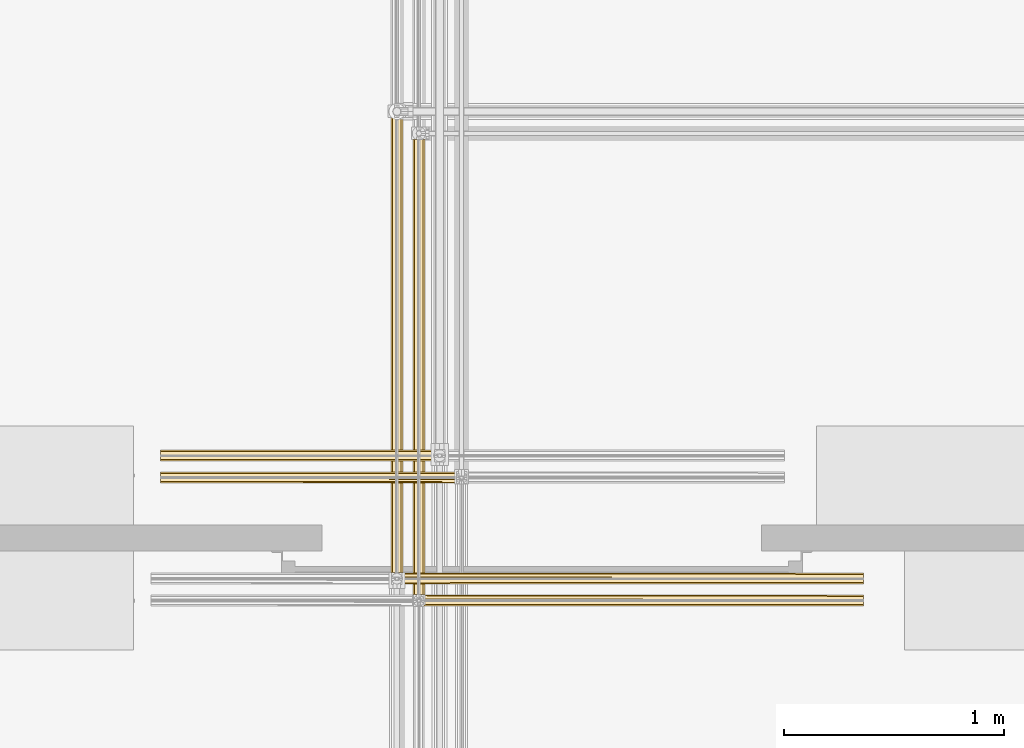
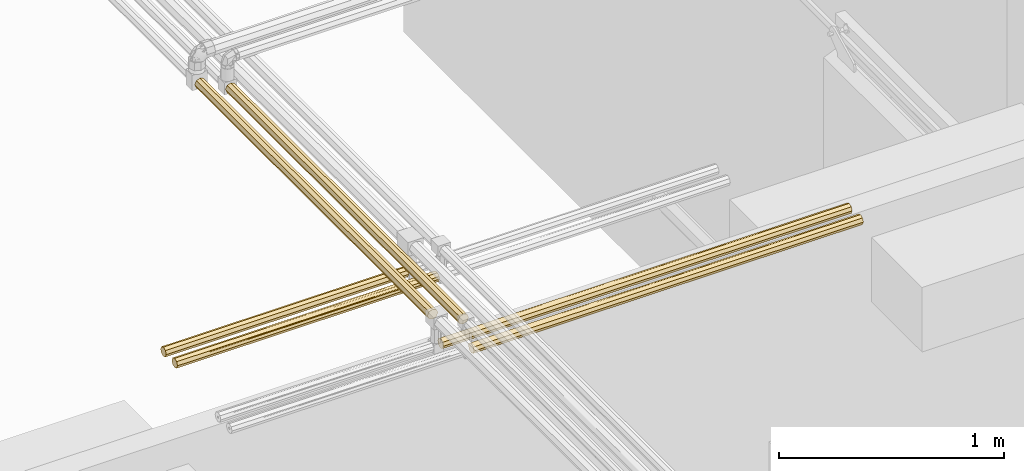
# One storey, part 86 of 652: 6 coverings.
"""IFC2X3 building model written with IfcOpenShell, lengths in millimetres."""

from ifc_helpers import new_model, entity, si_unit, converted_unit, direction, frame, origin, place, context, subcontext, project, spatial, faceted_brep, material, type_object, element, save


model = new_model("IFC2X3")

# Units and contexts
model_context = context("Model", 3, precision=0.01, world=frame((0.0, 0.0, 308426.39999999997)), true_north=direction((6.123233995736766e-17, 1.0)))
plan_context = context("Plan", 3, precision=0.01, world=frame((0.0, 0.0, 308426.39999999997)), true_north=direction((6.123233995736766e-17, 1.0)))
body_context = subcontext(model_context, "Body", "Model", "MODEL_VIEW")
ifc_project = project(units=[si_unit("LENGTHUNIT", "METRE", prefix="MILLI"), si_unit("AREAUNIT", "SQUARE_METRE"), si_unit("VOLUMEUNIT", "CUBIC_METRE"), converted_unit("PLANEANGLEUNIT", "DEGREE", entity("IfcPlaneAngleMeasure", 0.017453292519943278), si_unit("PLANEANGLEUNIT", "RADIAN"), dimensions=[0, 0, 0, 0, 0, 0, 0])], contexts=[model_context, plan_context])

# Site, building, storey
site_placement = place(None, origin())
site = spatial("IfcSite", under=ifc_project, at=site_placement, Name="Default", CompositionType="ELEMENT")
building_placement = place(site_placement, origin())
building = spatial("IfcBuilding", under=site, at=building_placement, CompositionType="ELEMENT")
storey_placement = place(building_placement, frame((0.0, 0.0, 1730.6999999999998)))
storey = spatial("IfcBuildingStorey", under=building, at=storey_placement, Name="EG_Produktion_FFB", CompositionType="ELEMENT", Elevation=1730.6999999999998)

# Coverings
ifc_material = material(Name="Dämmung - Armaflex-Schlauch")
covering_type = type_object("IfcCoveringType", Name="Rohrdämmung außen:Armaflex-Schlauch", PredefinedType="INSULATION")
covering_1_placement = place(storey_placement, frame((14961.467227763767, 57851.25459055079, 4228.532772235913)))
element("IfcCovering", 1, at=covering_1_placement, inside=storey, type_object=covering_type, material=ifc_material, Name="Rohrdämmung außen:Armaflex-Schlauch", ObjectType="Rohrdämmung außen:Armaflex-Schlauch", PredefinedType="INSULATION", context=body_context, shape_type="Brep", body=[
    faceted_brep([(14.24700554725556, 2070.3966594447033, -7.51263054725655), (19.008927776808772, 2070.3966594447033, -5.540177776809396), (23.77085000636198, 2070.3966594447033, -3.567725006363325), (28.53277223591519, 2070.3966594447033, -1.5952722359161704), (34.460828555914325, 2070.3966594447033, -4.050753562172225), (38.05661669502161, 2070.3966594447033, -5.540177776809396), (42.81853892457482, 2070.3966594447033, -7.51263054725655), (47.58046115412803, 2070.3966594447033, -9.485083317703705), (49.552913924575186, 2070.3966594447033, -14.247005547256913), (51.525366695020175, 2070.3966594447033, -19.008927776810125), (53.49781946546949, 2070.3966594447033, -23.770850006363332), (55.47027223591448, 2070.3966594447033, -28.532772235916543), (53.49781946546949, 2070.3966594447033, -33.29469446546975), (51.525366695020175, 2070.3966594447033, -38.05661669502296), (49.55291392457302, 2070.3966594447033, -42.818538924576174), (47.58046115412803, 2070.3966594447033, -47.58046115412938), (42.81853892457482, 2070.3966594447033, -49.552913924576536), (38.05661669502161, 2070.3966594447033, -51.52536669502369), (33.2946944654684, 2070.3966594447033, -53.49781946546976), (28.53277223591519, 2070.3966594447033, -55.470272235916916), (22.604715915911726, 2070.3966594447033, -53.01479090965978), (19.008927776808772, 2070.3966594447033, -51.52536669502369), (14.24700554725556, 2070.3966594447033, -49.552913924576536), (9.485083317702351, 2070.3966594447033, -47.58046115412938), (7.512630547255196, 2070.3966594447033, -42.818538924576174), (5.540177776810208, 2070.3966594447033, -38.05661669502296), (3.567725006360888, 2070.3966594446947, -33.29469446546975), (1.5952722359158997, 2070.3966594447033, -28.532772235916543), (4.050753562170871, 2070.3966594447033, -22.604715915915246), (5.540177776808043, 2070.3966594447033, -19.008927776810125), (7.512630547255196, 2070.3966594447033, -14.247005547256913), (9.485083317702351, 2070.3966594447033, -9.485083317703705), (1.5952722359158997, 0.0, -28.532772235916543), (4.050753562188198, 0.0, -34.46082855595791), (6.506234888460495, 0.0, -40.388884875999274), (9.485083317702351, 0.0, -47.58046115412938), (14.24700554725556, 0.0, -49.552913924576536), (19.008927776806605, 0.0, -51.52536669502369), (23.77085000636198, 0.0, -53.49781946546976), (28.53277223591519, 0.0, -55.470272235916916), (34.460828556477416, 0.0, -53.014790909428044), (40.388884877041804, 0.0, -50.55930958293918), (47.58046115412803, 0.0, -47.58046115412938), (49.552913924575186, 0.0, -42.818538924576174), (51.525366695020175, 0.0, -38.05661669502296), (53.49781946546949, 0.0, -33.29469446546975), (55.47027223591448, 0.0, -28.532772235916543), (53.01479090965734, 0.0, -22.604715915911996), (50.55930958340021, 0.0, -16.676659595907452), (47.58046115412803, 0.0, -9.485083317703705), (42.81853892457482, 0.0, -7.51263054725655), (38.05661669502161, 0.0, -5.540177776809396), (33.2946944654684, 0.0, -3.5677250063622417), (28.53277223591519, 0.0, -1.5952722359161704), (22.604715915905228, 0.0, -4.050753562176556), (16.676659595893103, 0.0, -6.506234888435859), (9.485083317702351, 0.0, -9.485083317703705), (7.512630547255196, 0.0, -14.247005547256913), (5.540177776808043, 0.0, -19.008927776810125), (3.567725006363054, 0.0, -23.770850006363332)], [[[0, 1, 2, 3, 4, 5, 6, 7, 8, 9, 10, 11, 12, 13, 14, 15, 16, 17, 18, 19, 20, 21, 22, 23, 24, 25, 26, 27, 28, 29, 30, 31]], [[32, 33, 34, 35, 36, 37, 38, 39, 40, 41, 42, 43, 44, 45, 46, 47, 48, 49, 50, 51, 52, 53, 54, 55, 56, 57, 58, 59]], [[44, 43, 42, 15, 14, 13, 12, 11, 46, 45]], [[42, 41, 40, 39, 19, 18, 17, 16, 15]], [[32, 27, 26, 25, 24, 23, 35, 34, 33]], [[22, 21, 20, 19, 39, 38, 37, 36, 35, 23]], [[53, 3, 2, 1, 0, 31, 56, 55, 54]], [[30, 29, 28, 27, 32, 59, 58, 57, 56, 31]], [[46, 11, 10, 9, 8, 7, 49, 48, 47]], [[6, 5, 4, 3, 53, 52, 51, 50, 49, 7]]]),
])
covering_2_placement = place(storey_placement, frame((15061.467227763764, 57751.25459055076, 4228.532772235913)))
element("IfcCovering", 2, at=covering_2_placement, inside=storey, type_object=covering_type, material=ifc_material, Name="Rohrdämmung außen:Armaflex-Schlauch", ObjectType="Rohrdämmung außen:Armaflex-Schlauch", PredefinedType="INSULATION", context=body_context, shape_type="Brep", body=[
    faceted_brep([(14.24700554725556, 2070.396659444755, -7.51263054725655), (19.008927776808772, 2070.396659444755, -5.540177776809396), (23.77085000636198, 2070.396659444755, -3.5677250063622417), (28.53277223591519, 2070.396659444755, -1.5952722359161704), (34.460828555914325, 2070.396659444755, -4.050753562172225), (38.05661669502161, 2070.396659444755, -5.540177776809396), (42.81853892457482, 2070.396659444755, -7.51263054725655), (47.58046115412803, 2070.396659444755, -9.485083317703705), (49.55291392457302, 2070.396659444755, -14.247005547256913), (51.525366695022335, 2070.396659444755, -19.008927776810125), (53.49781946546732, 2070.396659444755, -23.770850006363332), (55.47027223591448, 2070.396659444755, -28.532772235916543), (53.49781946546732, 2070.396659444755, -33.29469446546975), (51.525366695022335, 2070.396659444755, -38.05661669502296), (49.55291392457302, 2070.396659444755, -42.818538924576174), (47.58046115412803, 2070.396659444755, -47.58046115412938), (42.81853892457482, 2070.396659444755, -49.552913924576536), (38.05661669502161, 2070.396659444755, -51.52536669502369), (33.29469446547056, 2070.396659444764, -53.49781946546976), (28.53277223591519, 2070.396659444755, -55.470272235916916), (22.604715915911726, 2070.396659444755, -53.01479090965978), (19.008927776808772, 2070.396659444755, -51.52536669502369), (14.247005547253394, 2070.396659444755, -49.552913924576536), (9.485083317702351, 2070.396659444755, -47.58046115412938), (7.512630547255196, 2070.396659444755, -42.818538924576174), (5.540177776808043, 2070.396659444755, -38.05661669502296), (3.567725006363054, 2070.396659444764, -33.29469446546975), (1.5952722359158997, 2070.396659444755, -28.532772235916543), (4.050753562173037, 2070.396659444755, -22.604715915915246), (5.540177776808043, 2070.396659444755, -19.008927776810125), (7.512630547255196, 2070.396659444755, -14.247005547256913), (9.485083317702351, 2070.396659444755, -9.485083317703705), (1.5952722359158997, 0.0, -28.532772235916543), (4.050753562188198, 0.0, -34.46082855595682), (6.506234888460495, 0.0, -40.388884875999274), (9.485083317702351, 0.0, -47.58046115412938), (14.24700554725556, 0.0, -49.552913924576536), (19.008927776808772, 0.0, -51.52536669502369), (23.77085000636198, 0.0, -53.49781946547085), (28.53277223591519, 0.0, -55.470272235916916), (34.460828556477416, 0.0, -53.014790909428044), (40.388884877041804, 0.0, -50.55930958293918), (47.58046115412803, 0.0, -47.58046115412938), (49.552913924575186, 0.0, -42.818538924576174), (51.525366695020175, 0.0, -38.05661669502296), (53.49781946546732, 0.0, -33.29469446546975), (55.47027223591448, 0.0, -28.532772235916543), (53.01479090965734, 0.0, -22.60471591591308), (50.55930958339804, 0.0, -16.676659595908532), (47.58046115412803, 0.0, -9.485083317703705), (42.81853892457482, 0.0, -7.51263054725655), (38.05661669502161, 0.0, -5.540177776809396), (33.2946944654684, 0.0, -3.5677250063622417), (28.53277223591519, 0.0, -1.5952722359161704), (22.604715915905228, 0.0, -4.050753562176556), (16.67665959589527, 0.0, -6.506234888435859), (9.485083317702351, 0.0, -9.485083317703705), (7.512630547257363, 0.0, -14.247005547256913), (5.540177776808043, 0.0, -19.008927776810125), (3.567725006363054, 0.0, -23.770850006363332)], [[[0, 1, 2, 3, 4, 5, 6, 7, 8, 9, 10, 11, 12, 13, 14, 15, 16, 17, 18, 19, 20, 21, 22, 23, 24, 25, 26, 27, 28, 29, 30, 31]], [[32, 33, 34, 35, 36, 37, 38, 39, 40, 41, 42, 43, 44, 45, 46, 47, 48, 49, 50, 51, 52, 53, 54, 55, 56, 57, 58, 59]], [[44, 43, 42, 15, 14, 13, 12, 11, 46, 45]], [[42, 41, 40, 39, 19, 18, 17, 16, 15]], [[32, 27, 26, 25, 24, 23, 35, 34, 33]], [[22, 21, 20, 19, 39, 38, 37, 36, 35, 23]], [[53, 3, 2, 1, 0, 31, 56, 55, 54]], [[30, 29, 28, 27, 32, 59, 58, 57, 56, 31]], [[46, 11, 10, 9, 8, 7, 49, 48, 47]], [[6, 5, 4, 3, 53, 52, 51, 50, 49, 7]]]),
])
covering_3_placement = place(storey_placement, frame((15012.403727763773, 57795.96056831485, 4023.054727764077)))
element("IfcCovering", 3, at=covering_3_placement, inside=storey, type_object=covering_type, material=ifc_material, Name="Rohrdämmung außen:Armaflex-Schlauch", ObjectType="Rohrdämmung außen:Armaflex-Schlauch", PredefinedType="INSULATION", context=body_context, shape_type="Brep", body=[
    faceted_brep([(1.5952722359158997, 26.945272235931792, 1.5952722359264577), (1.5952722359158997, 21.60974183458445, 3.805321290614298), (1.5952722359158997, 17.982693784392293, 5.307693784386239), (1.5952722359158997, 13.50140455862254, 7.1639045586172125), (1.5952722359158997, 9.020115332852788, 9.020115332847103), (1.5952722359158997, 7.163904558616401, 13.501404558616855), (1.5952722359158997, 5.307693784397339, 17.982693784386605), (1.5952722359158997, 3.4514830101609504, 22.46398301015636), (1.5952722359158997, 1.5952722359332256, 26.945272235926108), (1.5952722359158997, 3.7045307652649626, 32.33730525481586), (1.5952722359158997, 5.813789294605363, 37.72933827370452), (1.5952722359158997, 8.323873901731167, 44.146028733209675), (1.5952722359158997, 13.551972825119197, 47.545150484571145), (1.5952722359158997, 18.78007174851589, 50.94427223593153), (1.5952722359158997, 35.1104727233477, 50.94427223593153), (1.5952722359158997, 38.6393593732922, 47.96725702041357), (1.5952722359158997, 42.16824602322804, 44.99024180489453), (1.5952722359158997, 45.69713267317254, 42.0132265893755), (1.5952722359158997, 49.22601932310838, 39.03621137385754), (1.5952722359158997, 50.76064577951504, 32.990741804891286), (1.5952722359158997, 52.29527223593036, 26.945272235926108), (1.5952722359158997, 50.439061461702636, 22.46398301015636), (1.5952722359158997, 48.58285068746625, 17.982693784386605), (1.5952722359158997, 46.72663991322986, 13.501404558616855), (1.5952722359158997, 44.8704291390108, 9.020115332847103), (1.5952722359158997, 40.389139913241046, 7.1639045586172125), (1.5952722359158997, 35.907850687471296, 5.307693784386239), (1.5952722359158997, 31.426561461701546, 3.4514830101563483), (2101.5952722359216, 13.50140455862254, 7.1639045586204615), (2101.5952722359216, 17.982693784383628, 5.3076937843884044), (2101.5952722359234, 22.463983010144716, 3.4514830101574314), (2101.5952722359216, 26.94527223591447, 1.595272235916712), (2101.5952722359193, 32.28080263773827, 3.805321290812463), (2101.5952722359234, 37.61633303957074, 6.015370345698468), (2101.5952722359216, 44.87042913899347, 9.020115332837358), (2101.5952722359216, 46.72663991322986, 13.501404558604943), (2101.5952722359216, 48.58285068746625, 17.982693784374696), (2101.5952722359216, 50.439061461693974, 22.46398301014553), (2101.5952722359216, 52.29527223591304, 26.945272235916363), (2101.5952722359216, 50.08522318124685, 32.28080263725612), (2101.5952722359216, 48.58285068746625, 35.907850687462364), (2101.5952722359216, 46.72663991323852, 40.38913991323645), (2101.5952722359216, 44.87042913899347, 44.87042913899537), (2101.5952722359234, 40.389139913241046, 46.72663991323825), (2101.5952722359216, 35.907850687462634, 48.582850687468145), (2101.5952722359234, 31.426561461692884, 50.43906146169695), (2101.5952722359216, 26.94527223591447, 52.295272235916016), (2101.5952722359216, 22.463983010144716, 50.439061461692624), (2101.5952722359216, 17.982693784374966, 48.5828506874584), (2101.5952722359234, 13.501404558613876, 46.72663991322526), (2101.5952722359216, 9.020115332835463, 44.87042913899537), (2101.5952722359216, 7.1639045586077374, 40.38913991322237), (2101.5952722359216, 5.307693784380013, 35.9078506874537), (2101.5952722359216, 3.4514830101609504, 31.426561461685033), (2101.5952722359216, 1.5952722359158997, 26.945272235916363), (2101.5952722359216, 3.8053212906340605, 21.609741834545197), (2101.5952722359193, 6.015370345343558, 16.27421143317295), (2101.5952722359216, 9.020115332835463, 9.020115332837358), (2.6062417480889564, 22.807165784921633, 51.955241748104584), (2.946272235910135, 26.945272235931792, 52.29527223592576), (2.6062417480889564, 31.083378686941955, 51.955241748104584)], [[[0, 1, 2, 3, 4, 5, 6, 7, 8, 9, 10, 11, 12, 13, 14, 15, 16, 17, 18, 19, 20, 21, 22, 23, 24, 25, 26, 27]], [[28, 29, 30, 31, 32, 33, 34, 35, 36, 37, 38, 39, 40, 41, 42, 43, 44, 45, 46, 47, 48, 49, 50, 51, 52, 53, 54, 55, 56, 57]], [[36, 35, 34, 24, 23, 22, 21, 20, 38, 37]], [[34, 33, 32, 31, 0, 27, 26, 25, 24]], [[54, 8, 7, 6, 5, 4, 57, 56, 55]], [[3, 2, 1, 0, 31, 30, 29, 28, 57, 4]], [[11, 51, 50]], [[47, 46, 58]], [[10, 9, 52]], [[12, 50, 49, 48]], [[12, 48, 13]], [[47, 13, 48]], [[13, 47, 58]], [[8, 53, 9]], [[10, 52, 51]], [[46, 59, 58]], [[50, 12, 11]], [[11, 10, 51]], [[53, 8, 54]], [[53, 52, 9]], [[45, 44, 14]], [[39, 38, 20]], [[43, 16, 15]], [[46, 60, 59]], [[42, 16, 43]], [[14, 60, 45]], [[40, 19, 18]], [[44, 43, 15]], [[17, 41, 18]], [[39, 20, 19]], [[17, 16, 42]], [[19, 40, 39]], [[44, 15, 14]], [[60, 46, 45]], [[41, 17, 42]], [[41, 40, 18]], [[14, 13, 58, 59, 60]]]),
])
covering_4_placement = place(storey_placement, frame((13913.998999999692, 58255.960568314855, 4076.945272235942)))
element("IfcCovering", 4, at=covering_4_placement, inside=storey, type_object=covering_type, material=ifc_material, Name="Rohrdämmung außen:Armaflex-Schlauch", ObjectType="Rohrdämmung außen:Armaflex-Schlauch", PredefinedType="INSULATION", context=body_context, shape_type="Brep", body=[
    faceted_brep([(1346.1957027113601, 26.94527223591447, -52.29527223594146), (1346.1957027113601, 31.106856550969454, -50.57148757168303), (1346.1957027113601, 35.90785068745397, -48.5828506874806), (1346.1957027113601, 40.38913991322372, -46.72663991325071), (1346.1957027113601, 44.87042913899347, -44.870429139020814), (1346.1957027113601, 46.7266399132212, -40.389139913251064), (1346.1957027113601, 48.58285068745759, -35.907850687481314), (1346.1957027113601, 50.43906146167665, -31.42656146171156), (1346.1957027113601, 52.29527223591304, -26.94527223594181), (1346.1957027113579, 50.650101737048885, -22.739617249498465), (1346.1957027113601, 49.00493123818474, -18.533962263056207), (1346.1957027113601, 47.28580090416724, -14.139239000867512), (1346.1957027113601, 45.56667057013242, -9.744515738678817), (1346.1957027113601, 40.33857164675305, -6.34539398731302), (1346.1957027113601, 35.11047272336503, -2.9462722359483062), (1346.1957027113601, 18.78007174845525, -2.9462722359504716), (1346.1957027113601, 15.251185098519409, -5.923287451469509), (1346.1957027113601, 11.722298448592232, -8.900302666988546), (1346.1957027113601, 8.193411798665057, -11.877317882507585), (1346.1957027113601, 4.664525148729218, -14.854333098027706), (1346.1957027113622, 3.1298986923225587, -20.899802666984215), (1346.1957027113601, 1.5952722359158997, -26.94527223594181), (1346.1957027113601, 3.4514830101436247, -31.42656146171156), (1346.1957027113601, 5.30769378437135, -35.907850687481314), (1346.1957027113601, 7.1639045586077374, -40.389139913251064), (1346.1957027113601, 9.020115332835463, -44.870429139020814), (1346.1957027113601, 13.501404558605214, -46.72663991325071), (1346.1957027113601, 17.982693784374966, -48.5828506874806), (1346.1957027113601, 22.463983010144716, -50.43906146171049), (0.0, 40.389139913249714, -46.72663991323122), (0.0, 35.90785068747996, -48.582850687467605), (0.0, 31.426561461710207, -50.43906146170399), (0.0, 26.945272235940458, -52.295272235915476), (0.0, 22.783687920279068, -50.57148757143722), (0.0, 18.622103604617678, -48.847702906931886), (0.0, 13.82110946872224, -46.85906602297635), (0.0, 9.020115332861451, -44.87042913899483), (0.0, 7.1639045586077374, -40.38913991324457), (0.0, 5.30769378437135, -35.90785068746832), (0.0, 3.4514830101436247, -31.42656146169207), (0.0, 1.5952722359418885, -26.945272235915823), (0.0, 3.3190569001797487, -22.783687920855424), (0.0, 5.307693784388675, -17.98269378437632), (0.0, 7.163904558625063, -13.501404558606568), (0.0, 9.020115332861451, -9.020115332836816), (0.0, 13.501404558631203, -7.163904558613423), (0.0, 17.982693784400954, -5.307693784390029), (0.0, 22.463983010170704, -3.4514830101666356), (0.0, 26.945272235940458, -1.5952722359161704), (0.0, 31.426561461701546, -3.4514830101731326), (0.0, 35.907850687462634, -5.307693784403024), (0.0, 40.389139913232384, -7.163904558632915), (0.0, 44.870429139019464, -9.020115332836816), (0.0, 46.7266399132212, -13.501404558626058), (0.0, 48.58285068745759, -17.982693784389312), (0.0, 50.43906146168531, -22.463983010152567), (0.0, 52.295272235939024, -26.945272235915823), (0.0, 50.571487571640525, -31.1068565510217), (0.0, 48.84770290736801, -35.2684408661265), (0.0, 46.85906602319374, -40.06943500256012), (0.0, 44.870429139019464, -44.87042913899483), (1345.1847331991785, 31.083378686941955, -1.9353027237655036), (1344.844702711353, 26.94527223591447, -1.5952722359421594), (1345.1847331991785, 22.80716578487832, -1.9353027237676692)], [[[0, 1, 2, 3, 4, 5, 6, 7, 8, 9, 10, 11, 12, 13, 14, 15, 16, 17, 18, 19, 20, 21, 22, 23, 24, 25, 26, 27, 28]], [[29, 30, 31, 32, 33, 34, 35, 36, 37, 38, 39, 40, 41, 42, 43, 44, 45, 46, 47, 48, 49, 50, 51, 52, 53, 54, 55, 56, 57, 58, 59, 60]], [[38, 37, 36, 25, 24, 23, 22, 21, 40, 39]], [[34, 33, 32, 0, 28, 27, 26, 25, 36, 35]], [[1, 0, 32, 31, 30, 29, 60, 4, 3, 2]], [[4, 60, 59, 58, 57, 56, 8, 7, 6, 5]], [[53, 52, 12]], [[49, 48, 61]], [[10, 55, 54]], [[9, 56, 55]], [[13, 52, 51, 50]], [[9, 8, 56]], [[49, 14, 50]], [[14, 49, 61]], [[55, 10, 9]], [[11, 10, 54]], [[48, 62, 61]], [[52, 13, 12]], [[53, 12, 11]], [[11, 54, 53]], [[13, 50, 14]], [[47, 46, 15]], [[41, 40, 21]], [[45, 17, 16]], [[48, 63, 62]], [[44, 17, 45]], [[15, 63, 47]], [[42, 20, 19]], [[46, 45, 16]], [[18, 43, 19]], [[41, 21, 20]], [[18, 17, 44]], [[20, 42, 41]], [[46, 16, 15]], [[63, 48, 47]], [[43, 18, 44]], [[43, 42, 19]], [[61, 62, 63, 15, 14]]]),
])
covering_5_placement = place(storey_placement, frame((15112.403727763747, 57695.96056831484, 4023.0547277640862)))
element("IfcCovering", 5, at=covering_5_placement, inside=storey, type_object=covering_type, material=ifc_material, Name="Rohrdämmung außen:Armaflex-Schlauch", ObjectType="Rohrdämmung außen:Armaflex-Schlauch", PredefinedType="INSULATION", context=body_context, shape_type="Brep", body=[
    faceted_brep([(1.5952722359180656, 26.945272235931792, 1.5952722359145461), (1.5952722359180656, 21.342965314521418, 3.9158237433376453), (1.5952722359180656, 17.982693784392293, 5.30769378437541), (1.5952722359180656, 13.50140455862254, 7.163904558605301), (1.5952722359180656, 9.020115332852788, 9.020115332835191), (1.5952722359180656, 7.163904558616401, 13.501404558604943), (1.5952722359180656, 5.307693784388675, 17.982693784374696), (1.5952722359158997, 3.4514830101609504, 22.463983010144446), (1.5952722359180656, 1.5952722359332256, 26.945272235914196), (1.5952722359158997, 3.8099936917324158, 32.60690690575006), (1.5952722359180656, 6.024715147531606, 38.26854157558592), (1.5952722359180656, 8.323873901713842, 44.14602873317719), (1.5952722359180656, 13.551972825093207, 47.54515048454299), (1.5952722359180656, 18.780071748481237, 50.944272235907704), (1.5952722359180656, 35.11047272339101, 50.94427223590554), (1.5952722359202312, 38.63935937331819, 47.9672570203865), (1.5952722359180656, 42.16824602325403, 44.99024180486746), (1.5952722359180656, 45.69713267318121, 42.01322658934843), (1.5952722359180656, 49.22601932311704, 39.03621137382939), (1.5952722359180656, 50.760645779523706, 32.99074180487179), (1.5952722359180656, 52.29527223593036, 26.945272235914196), (1.5952722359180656, 50.439061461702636, 22.463983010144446), (1.5952722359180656, 48.58285068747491, 17.982693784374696), (1.5952722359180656, 46.72663991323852, 13.501404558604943), (1.5952722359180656, 44.8704291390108, 9.020115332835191), (1.5952722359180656, 40.389139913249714, 7.163904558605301), (1.5952722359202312, 35.90785068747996, 5.30769378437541), (1.5952722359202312, 31.426561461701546, 3.4514830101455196), (2001.5952722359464, 13.501404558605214, 7.16390455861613), (2001.5952722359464, 17.982693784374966, 5.307693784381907), (2001.595272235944, 22.463983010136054, 3.4514830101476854), (2001.5952722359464, 26.94527223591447, 1.5952722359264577), (2001.5952722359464, 32.547579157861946, 3.915823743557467), (2001.5952722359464, 38.149886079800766, 6.236375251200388), (2001.5952722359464, 44.87042913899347, 9.020115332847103), (2001.5952722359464, 46.72663991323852, 13.501404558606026), (2001.5952722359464, 48.58285068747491, 17.982693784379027), (2001.5952722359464, 50.439061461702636, 22.463983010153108), (2001.5952722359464, 52.29527223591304, 26.945272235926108), (2001.5952722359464, 49.97472072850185, 32.54757915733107), (2001.5952722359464, 48.58285068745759, 35.90785068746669), (2001.5952722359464, 46.7266399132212, 40.38913991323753), (2001.5952722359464, 44.87042913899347, 44.87042913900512), (2001.5952722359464, 40.38913991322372, 46.726639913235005), (2001.5952722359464, 35.90785068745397, 48.58285068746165), (2001.5952722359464, 31.426561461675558, 50.43906146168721), (2001.5952722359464, 26.94527223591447, 52.29527223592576), (2001.5952722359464, 22.46398301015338, 50.439061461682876), (2001.5952722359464, 17.982693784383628, 48.5828506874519), (2001.5952722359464, 13.501404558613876, 46.72663991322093), (2001.5952722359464, 9.020115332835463, 44.87042913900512), (2001.5952722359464, 7.163904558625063, 40.38913991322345), (2001.5952722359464, 5.307693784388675, 35.90785068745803), (2001.5952722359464, 3.4514830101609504, 31.42656146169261), (2001.5952722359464, 1.5952722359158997, 26.945272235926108), (2001.5952722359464, 3.915823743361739, 21.342965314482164), (2001.5952722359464, 6.236375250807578, 15.7406583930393), (2001.5952722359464, 9.020115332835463, 9.020115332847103), (2.606241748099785, 22.807165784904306, 51.95524174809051), (2.9462722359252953, 26.945272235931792, 52.29527223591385), (2.606241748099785, 31.083378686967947, 51.95524174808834)], [[[0, 1, 2, 3, 4, 5, 6, 7, 8, 9, 10, 11, 12, 13, 14, 15, 16, 17, 18, 19, 20, 21, 22, 23, 24, 25, 26, 27]], [[28, 29, 30, 31, 32, 33, 34, 35, 36, 37, 38, 39, 40, 41, 42, 43, 44, 45, 46, 47, 48, 49, 50, 51, 52, 53, 54, 55, 56, 57]], [[36, 35, 34, 24, 23, 22, 21, 20, 38, 37]], [[34, 33, 32, 31, 0, 27, 26, 25, 24]], [[54, 8, 7, 6, 5, 4, 57, 56, 55]], [[3, 2, 1, 0, 31, 30, 29, 28, 57, 4]], [[11, 51, 50]], [[47, 46, 58]], [[10, 9, 52]], [[12, 50, 49, 48]], [[12, 48, 13]], [[47, 13, 48]], [[13, 47, 58]], [[8, 53, 9]], [[10, 52, 51]], [[46, 59, 58]], [[50, 12, 11]], [[11, 10, 51]], [[53, 8, 54]], [[53, 52, 9]], [[45, 44, 14]], [[39, 38, 20]], [[43, 16, 15]], [[46, 60, 59]], [[42, 16, 43]], [[14, 60, 45]], [[40, 19, 18]], [[44, 43, 15]], [[17, 41, 18]], [[39, 20, 19]], [[17, 16, 42]], [[19, 40, 39]], [[44, 15, 14]], [[60, 46, 45]], [[41, 17, 42]], [[41, 40, 18]], [[14, 13, 58, 59, 60]]]),
])
covering_6_placement = place(storey_placement, frame((13913.998999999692, 58355.96056831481, 4023.054727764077)))
element("IfcCovering", 6, at=covering_6_placement, inside=storey, type_object=covering_type, material=ifc_material, Name="Rohrdämmung außen:Armaflex-Schlauch", ObjectType="Rohrdämmung außen:Armaflex-Schlauch", PredefinedType="INSULATION", context=body_context, shape_type="Brep", body=[
    faceted_brep([(0.0, 1.5952722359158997, 26.94527223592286), (0.0, 3.4573806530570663, 31.440799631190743), (0.0, 5.30769378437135, 35.907850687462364), (0.0, 7.163904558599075, 40.389139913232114), (0.0, 9.020115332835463, 44.870429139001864), (0.0, 13.501404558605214, 46.72663991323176), (0.0, 17.982693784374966, 48.58285068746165), (0.0, 22.449744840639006, 50.433163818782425), (0.0, 26.94527223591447, 52.29527223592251), (0.0, 31.440799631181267, 50.433163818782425), (0.0, 35.90785068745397, 48.58285068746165), (0.0, 40.38913991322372, 46.72663991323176), (0.0, 44.87042913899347, 44.870429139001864), (0.0, 46.7266399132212, 40.389139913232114), (0.0, 48.58285068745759, 35.907850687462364), (0.0, 50.433163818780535, 31.440799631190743), (0.0, 52.29527223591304, 26.94527223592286), (0.0, 50.43906146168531, 22.463983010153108), (0.0, 48.58285068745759, 17.982693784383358), (0.0, 46.7266399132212, 13.501404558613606), (0.0, 44.87042913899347, 9.020115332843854), (0.0, 40.38913991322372, 7.1639045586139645), (0.0, 35.90785068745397, 5.307693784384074), (0.0, 31.440799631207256, 3.4573806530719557), (0.0, 26.94527223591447, 1.5952722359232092), (0.0, 22.449744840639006, 3.457380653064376), (0.0, 17.982693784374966, 5.307693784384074), (0.0, 13.501404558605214, 7.1639045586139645), (0.0, 9.020115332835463, 9.020115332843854), (0.0, 7.1639045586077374, 13.501404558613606), (0.0, 5.30769378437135, 17.982693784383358), (0.0, 3.4573806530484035, 22.449744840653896), (1246.1957027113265, 13.501404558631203, 7.1639045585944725), (1246.1957027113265, 17.982693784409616, 5.307693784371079), (1246.1957027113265, 22.46398301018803, 3.4514830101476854), (1246.1957027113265, 26.945272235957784, 1.595272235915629), (1246.1957027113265, 31.440799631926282, 3.4573806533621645), (1246.1957027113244, 35.93632702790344, 5.3194890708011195), (1246.1957027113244, 40.40337808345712, 7.169802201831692), (1246.1957027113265, 44.87042913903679, 9.020115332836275), (1246.1957027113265, 46.72663991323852, 13.501404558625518), (1246.1957027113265, 48.58285068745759, 17.982693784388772), (1246.1957027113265, 50.439061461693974, 22.463983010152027), (1246.1957027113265, 52.295272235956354, 26.94527223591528), (1246.1957027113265, 50.43316381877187, 31.44079963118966), (1246.1957027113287, 48.57105540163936, 35.93632702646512), (1246.1957027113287, 46.72074227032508, 40.4033780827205), (1246.1957027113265, 44.87042913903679, 44.87042913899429), (1246.1957027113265, 40.389139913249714, 46.72663991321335), (1246.1957027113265, 35.907850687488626, 48.582850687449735), (1246.1957027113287, 31.426561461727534, 50.43906146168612), (1246.1957027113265, 26.945272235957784, 52.29527223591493), (1246.1957027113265, 22.449744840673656, 50.43316381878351), (1246.1957027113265, 17.95421744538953, 48.571055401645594), (1246.1957027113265, 13.487166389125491, 46.72074227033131), (1246.1957027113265, 9.020115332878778, 44.87042913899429), (1246.1957027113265, 7.163904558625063, 40.38913991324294), (1246.1957027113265, 5.307693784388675, 35.90785068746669), (1246.1957027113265, 3.4514830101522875, 31.42656146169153), (1246.1957027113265, 1.5952722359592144, 26.94527223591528), (1246.1957027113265, 3.4573806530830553, 22.449744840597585), (1246.1957027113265, 5.319489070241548, 17.954217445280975), (1246.1957027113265, 7.169802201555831, 13.48716638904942), (1246.1957027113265, 9.020115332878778, 9.020115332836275)], [[[0, 1, 2, 3, 4, 5, 6, 7, 8, 9, 10, 11, 12, 13, 14, 15, 16, 17, 18, 19, 20, 21, 22, 23, 24, 25, 26, 27, 28, 29, 30, 31]], [[32, 33, 34, 35, 36, 37, 38, 39, 40, 41, 42, 43, 44, 45, 46, 47, 48, 49, 50, 51, 52, 53, 54, 55, 56, 57, 58, 59, 60, 61, 62, 63]], [[41, 40, 39, 20, 19, 18, 17, 16, 43, 42]], [[20, 39, 38, 37, 36, 35, 24, 23, 22, 21]], [[24, 35, 34, 33, 32, 63, 28, 27, 26, 25]], [[28, 63, 62, 61, 60, 59, 0, 31, 30, 29]], [[0, 59, 58, 57, 56, 55, 4, 3, 2, 1]], [[4, 55, 54, 53, 52, 51, 8, 7, 6, 5]], [[8, 51, 50, 49, 48, 47, 12, 11, 10, 9]], [[12, 47, 46, 45, 44, 43, 16, 15, 14, 13]]]),
])

save(model, "model.ifc")
